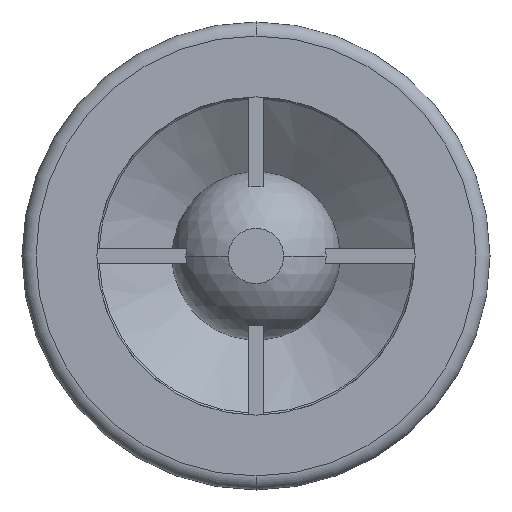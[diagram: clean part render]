
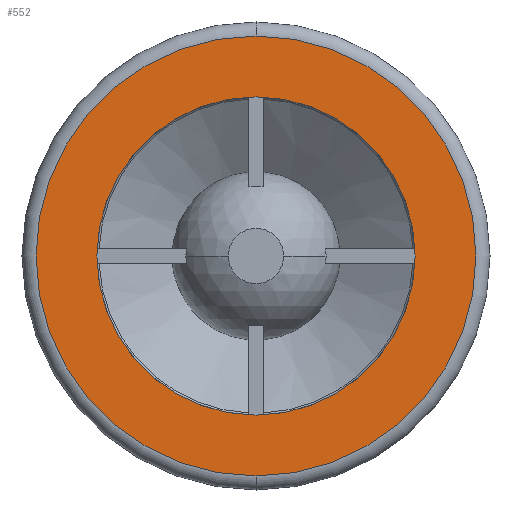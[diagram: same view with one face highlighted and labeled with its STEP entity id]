
A CAD part, front view. The second image highlights one B-rep face of the part: STEP entity #552.
In plain terms, the highlighted planar face has unit normal (0, -1, 0).
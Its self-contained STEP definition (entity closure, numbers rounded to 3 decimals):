
#45 = EDGE_CURVE ( 'NONE', #4865, #4840, #638, .T. ) ;
#429 = EDGE_CURVE ( 'NONE', #430, #431, #1344, .T. ) ;
#430 = VERTEX_POINT ( 'NONE', #1335 ) ;
#431 = VERTEX_POINT ( 'NONE', #1334 ) ;
#542 = ORIENTED_EDGE ( 'NONE', *, *, #429, .T. ) ;
#543 = EDGE_LOOP ( 'NONE', ( #548, #550 ) ) ;
#544 = EDGE_CURVE ( 'NONE', #431, #430, #1559, .T. ) ;
#545 = ORIENTED_EDGE ( 'NONE', *, *, #544, .T. ) ;
#548 = ORIENTED_EDGE ( 'NONE', *, *, #45, .F. ) ;
#550 = ORIENTED_EDGE ( 'NONE', *, *, #4869, .F. ) ;
#552 = ADVANCED_FACE ( 'NONE', ( #1549, #1548 ), #1547, .F. ) ;
#553 = EDGE_LOOP ( 'NONE', ( #545, #542 ) ) ;
#634 = DIRECTION ( 'NONE',  ( 0., 0., -1. ) ) ;
#635 = DIRECTION ( 'NONE',  ( 0., -1., 0. ) ) ;
#636 = CARTESIAN_POINT ( 'NONE',  ( 0., 0., 0. ) ) ;
#637 = AXIS2_PLACEMENT_3D ( 'NONE', #636, #635, #634 ) ;
#638 = CIRCLE ( 'NONE', #637, 17. ) ;
#1334 = CARTESIAN_POINT ( 'NONE',  ( 0., 0., 23.5 ) ) ;
#1335 = CARTESIAN_POINT ( 'NONE',  ( 0., 0., -23.5 ) ) ;
#1336 = DIRECTION ( 'NONE',  ( 0., 0., 1. ) ) ;
#1337 = DIRECTION ( 'NONE',  ( 0., -1., 0. ) ) ;
#1338 = CARTESIAN_POINT ( 'NONE',  ( 0., 0., 0. ) ) ;
#1339 = AXIS2_PLACEMENT_3D ( 'NONE', #1338, #1337, #1336 ) ;
#1344 = CIRCLE ( 'NONE', #1339, 23.5 ) ;
#1542 = DIRECTION ( 'NONE',  ( 0., 0., 1. ) ) ;
#1543 = DIRECTION ( 'NONE',  ( 0., 1., 0. ) ) ;
#1544 = CARTESIAN_POINT ( 'NONE',  ( -17., 0., 0. ) ) ;
#1546 = AXIS2_PLACEMENT_3D ( 'NONE', #1544, #1543, #1542 ) ;
#1547 = PLANE ( 'NONE',  #1546 ) ;
#1548 = FACE_BOUND ( 'NONE', #543, .T. ) ;
#1549 = FACE_OUTER_BOUND ( 'NONE', #553, .T. ) ;
#1555 = DIRECTION ( 'NONE',  ( 0., 0., 1. ) ) ;
#1556 = DIRECTION ( 'NONE',  ( 0., -1., 0. ) ) ;
#1557 = CARTESIAN_POINT ( 'NONE',  ( 0., 0., 0. ) ) ;
#1558 = AXIS2_PLACEMENT_3D ( 'NONE', #1557, #1556, #1555 ) ;
#1559 = CIRCLE ( 'NONE', #1558, 23.5 ) ;
#3352 = CARTESIAN_POINT ( 'NONE',  ( 0., 0., 17. ) ) ;
#3416 = DIRECTION ( 'NONE',  ( 0., 0., -1. ) ) ;
#3417 = DIRECTION ( 'NONE',  ( 0., -1., 0. ) ) ;
#3418 = CARTESIAN_POINT ( 'NONE',  ( 0., 0., 0. ) ) ;
#3419 = AXIS2_PLACEMENT_3D ( 'NONE', #3418, #3417, #3416 ) ;
#3425 = CIRCLE ( 'NONE', #3419, 17. ) ;
#3436 = CARTESIAN_POINT ( 'NONE',  ( 0., 0., -17. ) ) ;
#4840 = VERTEX_POINT ( 'NONE', #3352 ) ;
#4865 = VERTEX_POINT ( 'NONE', #3436 ) ;
#4869 = EDGE_CURVE ( 'NONE', #4840, #4865, #3425, .T. ) ;
